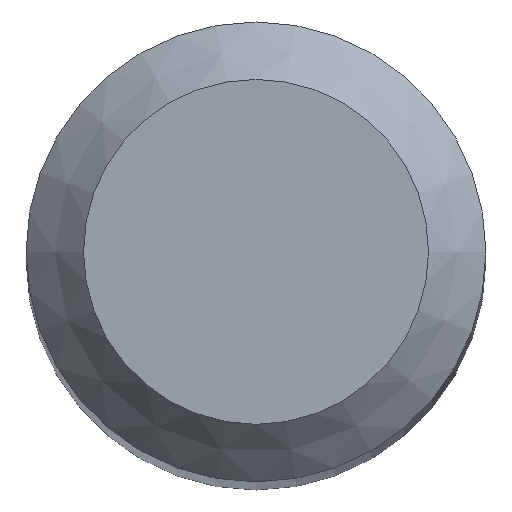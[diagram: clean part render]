
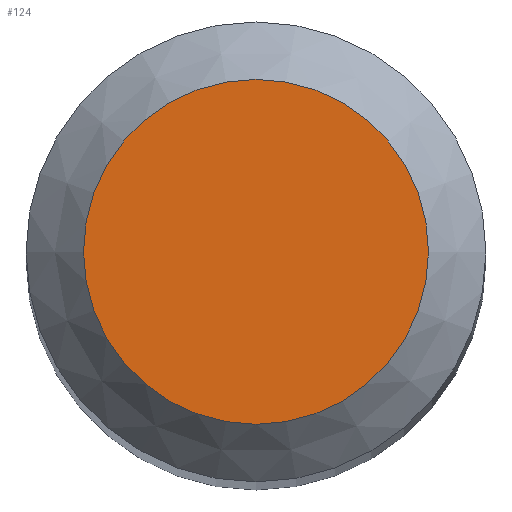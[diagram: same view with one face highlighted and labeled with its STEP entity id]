
A CAD part, top view. The second image highlights one B-rep face of the part: STEP entity #124.
In plain terms, the highlighted planar face has unit normal (0, 0, 1).
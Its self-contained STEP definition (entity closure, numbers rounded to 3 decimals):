
#108=CARTESIAN_POINT('',(1.5,0.0,48.0));
#109=DIRECTION('',(0.0,0.0,1.0));
#110=DIRECTION('',(1.0,0.0,0.0));
#111=AXIS2_PLACEMENT_3D('',#108,#109,#110);
#112=PLANE('',#111);
#113=CARTESIAN_POINT('',(-1.5,0.0,48.0));
#114=VERTEX_POINT('',#113);
#115=CARTESIAN_POINT('',(0.0,0.0,48.0));
#116=DIRECTION('',(0.0,0.0,-1.0));
#117=DIRECTION('',(-1.0,0.0,0.0));
#118=AXIS2_PLACEMENT_3D('',#115,#116,#117);
#119=CIRCLE('',#118,1.5);
#120=EDGE_CURVE('',#114,#114,#119,.T.);
#121=ORIENTED_EDGE('',*,*,#120,.F.);
#122=EDGE_LOOP('',(#121));
#123=FACE_OUTER_BOUND('',#122,.T.);
#124=ADVANCED_FACE('',(#123),#112,.T.);
